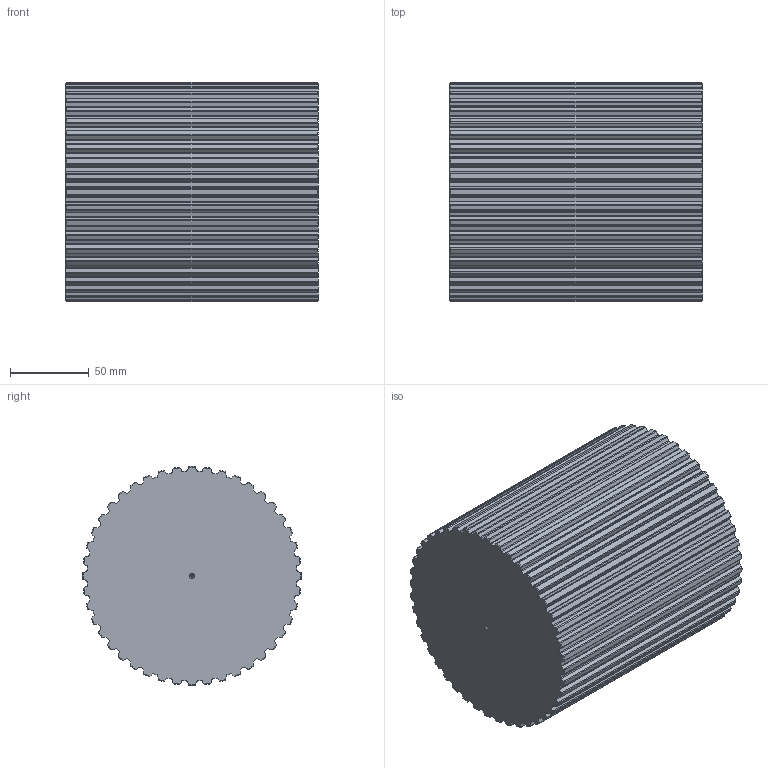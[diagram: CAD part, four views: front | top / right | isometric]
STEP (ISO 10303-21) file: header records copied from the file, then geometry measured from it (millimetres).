
FILE_DESCRIPTION(('STEP AP214'),'1');
FILE_NAME('barat_44.stp','2018-03-26T08:25:42',('TraceParts'),('TraceParts S.A.'),'Spatial InterOp 3D',' ',' ');
FILE_SCHEMA(('automotive_design'));
Length unit declared in the file: millimetre
Products named in the file (1): barat_44
Bounding box: 160 x 139.06 x 139.06 mm (x, y, z)
Volume: 2335424 mm3; surface area: 120212.9 mm2
Topology: 1 solids, 1 shells, 458 faces, 1360 edges, 902 vertices
Faces by surface type: cylinder 268, cone 100, plane 90
Entity records: 16503 total; most frequent: CARTESIAN_POINT 4653, ORIENTED_EDGE 2712, DIRECTION 2382, EDGE_CURVE 1356, AXIS2_PLACEMENT_3D 919, VERTEX_POINT 902, LINE 544, VECTOR 544
